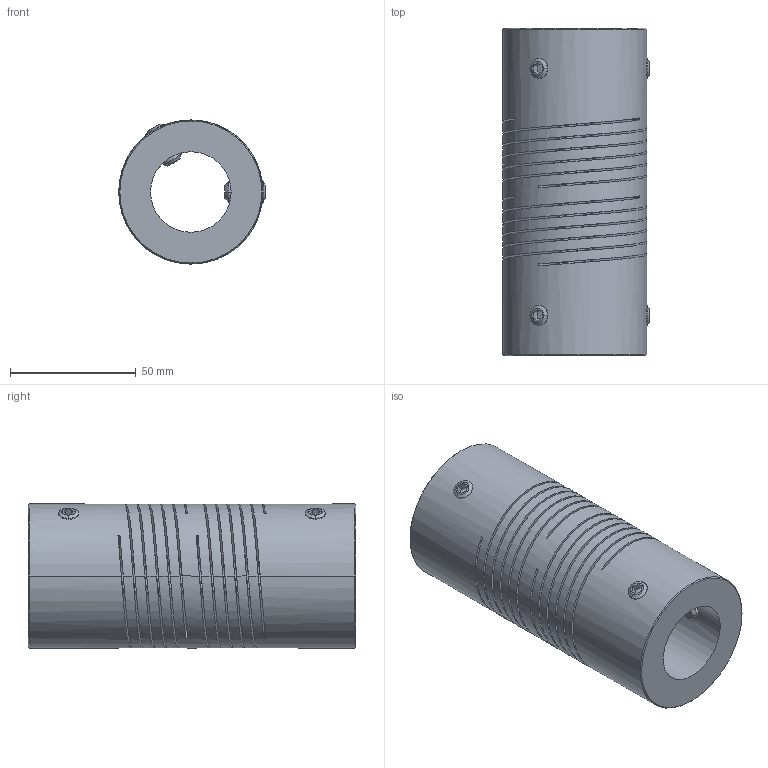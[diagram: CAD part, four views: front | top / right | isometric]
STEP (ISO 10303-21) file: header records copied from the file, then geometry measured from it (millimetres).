
FILE_DESCRIPTION((''),'2;1');
FILE_NAME('722_57_ASM','2006-12-05T',('Gary Melling'),(''),'PRO/ENGINEER BY PARAMETRIC TECHNOLOGY CORPORATION, 2006240','PRO/ENGINEER BY PARAMETRIC TECHNOLOGY CORPORATION, 2006240','');
FILE_SCHEMA(('CONFIG_CONTROL_DESIGN'));
Length unit declared in the file: millimetre
Products named in the file (3): 722_57; GS_8; 722_57_ASM
Assembly tree (5 placements, depth 2):
  722_57_ASM
    722_57
    GS_8  x4
Bounding box: 58.1 x 130 x 57.2 mm (x, y, z)
Volume: 210634.9 mm3; surface area: 80465.7 mm2
Topology: 5 solids, 5 shells, 144 faces, 400 edges, 256 vertices
Faces by surface type: cylinder 60, plane 52, cone 20, bspline 12
Entity records: 6994 total; most frequent: CARTESIAN_POINT 4419, ORIENTED_EDGE 608, DIRECTION 390, EDGE_CURVE 304, VERTEX_POINT 196, VECTOR 144, LINE 144, B_SPLINE_CURVE_WITH_KNOTS 132
